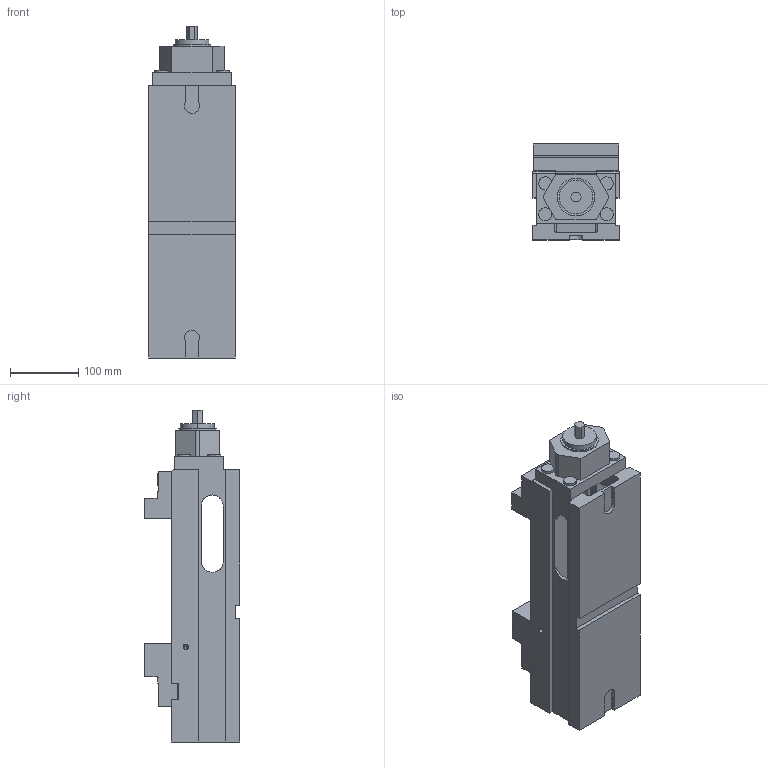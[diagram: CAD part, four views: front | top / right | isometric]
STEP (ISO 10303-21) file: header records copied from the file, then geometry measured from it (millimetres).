
FILE_DESCRIPTION((''),'2;1');
FILE_NAME('FG_VC_HIPR_LC125NP001ASM_ASM','2026-03-12T12:56:44',('Admin'),(''),'CREO PARAMETRIC BY PTC INC, 2025010','CREO PARAMETRIC BY PTC INC, 2025010','');
FILE_SCHEMA(('CONFIG_CONTROL_DESIGN'));
Length unit declared in the file: millimetre
Products named in the file (6): FG_VC_HIPR_LC125NP001; HOUSING; FG_VC_HIPR_C0055NP001; FG_VC_HIPR_C0054NP001; DIN912-M12X25-12_9; FG_VC_HIPR_LC125NP001ASM_ASM
Assembly tree (12 placements, depth 2):
  FG_VC_HIPR_LC125NP001ASM_ASM
    FG_VC_HIPR_LC125NP001
    HOUSING
    FG_VC_HIPR_C0055NP001
    FG_VC_HIPR_C0054NP001
    DIN912-M12X25-12_9  x8
Bounding box: 126 x 139.7 x 485.2 mm (x, y, z)
Volume: 3863164.3 mm3; surface area: 523416.7 mm2
Topology: 12 solids, 48 shells, 626 faces, 1714 edges, 1142 vertices
Faces by surface type: plane 315, cylinder 223, cone 72, torus 16
Entity records: 18057 total; most frequent: CARTESIAN_POINT 5245, DIRECTION 2614, ORIENTED_EDGE 2556, EDGE_CURVE 1360, VERTEX_POINT 932, AXIS2_PLACEMENT_3D 903, VECTOR 808, LINE 808
